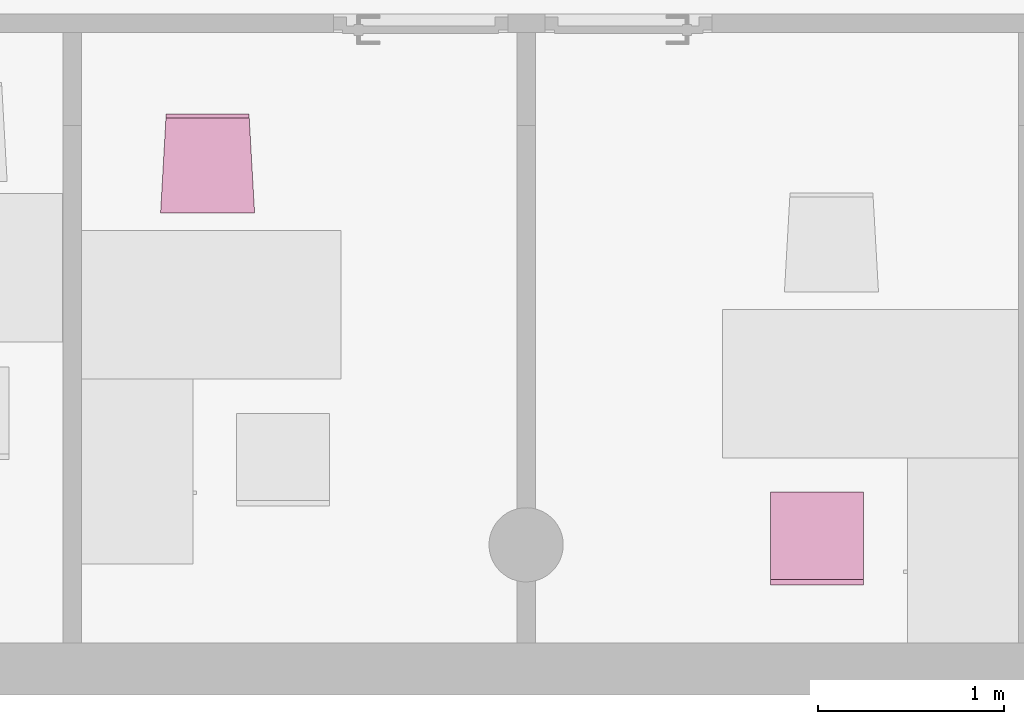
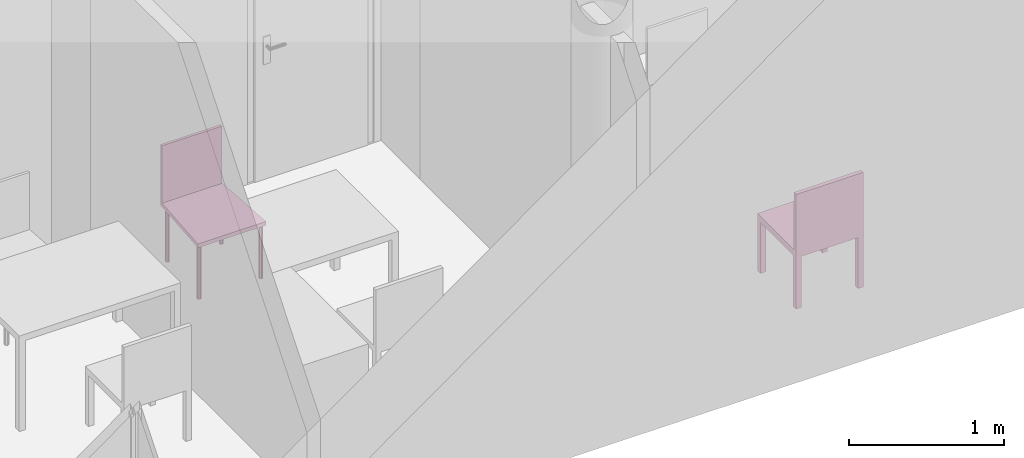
"""IFC4 building model written with IfcOpenShell, lengths in metres."""

import ifcopenshell
import ifcopenshell.guid

model = None  # the IFC model being written
_history = None  # IfcOwnerHistory: only IFC2X3 demands one
_inside = {}  # id of a spatial element -> (the spatial element, [elements in it])
_under = {}  # id of a project, library or spatial element -> (it, [spatial elements below it])
_declared = {}  # id of a project -> (the project, [libraries it declares])
_typed = {}  # id of a type object -> (the type object, [elements of that type])
_made_of = {}  # id of a material, layer set ... -> (it, [elements and type objects made of it])


def new_model(schema):
    """Start an empty IFC model of exactly this schema.

    Asked for "IFC4X3", IfcOpenShell would pick the latest addendum, in which some entities
    have other attributes; the version numbers below select the first issue.
    IFC2X3 requires an IfcOwnerHistory on every rooted entity: one is made here for all.
    """
    global model, _history
    if schema == "IFC4X3":
        model = ifcopenshell.file(schema_version=(4, 3, 0, 0))
    else:
        model = ifcopenshell.file(schema=schema)
    _inside.clear()
    _under.clear()
    _declared.clear()
    _typed.clear()
    _made_of.clear()
    _history = None
    if model.schema == "IFC2X3":
        org = make("IfcOrganization", Name="unknown")
        user = make(
            "IfcPersonAndOrganization",
            ThePerson=make("IfcPerson", FamilyName="unknown"),
            TheOrganization=org,
        )
        app = make(
            "IfcApplication",
            ApplicationDeveloper=org,
            Version="unknown",
            ApplicationFullName="unknown",
            ApplicationIdentifier="unknown",
        )
        _history = make(
            "IfcOwnerHistory",
            OwningUser=user,
            OwningApplication=app,
            ChangeAction="ADDED",
            CreationDate=0,
        )
    return model


def make(cls, **values):
    """One entity of the class cls with the attributes given. An attribute that is None is left unset."""
    return model.create_entity(
        cls, **{name: value for name, value in values.items() if value is not None}
    )


def entity(cls, *values):
    """Any entity or typed value of the class cls, its attributes in the order of the schema. None: left unset."""
    e = model.create_entity(cls)
    for i, value in enumerate(values):
        if value is not None:
            e[i] = value
    return e


def rooted(cls, **values):
    """An entity with a GlobalId (a new one), such as an element, a storey or a relation."""
    return make(cls, GlobalId=ifcopenshell.guid.new(), OwnerHistory=_history, **values)


def si_unit(unit_type, name, prefix=None):
    """IfcSIUnit, for example si_unit("LENGTHUNIT", "METRE", prefix="MILLI")."""
    return make("IfcSIUnit", UnitType=unit_type, Prefix=prefix, Name=name)


def converted_unit(unit_type, name, factor, base, dimensions=None, offset=None):
    """IfcConversionBasedUnit, such as the inch: factor (a typed value) times the base unit."""
    return make(
        "IfcConversionBasedUnit"
        if offset is None
        else "IfcConversionBasedUnitWithOffset",
        ConversionOffset=offset,
        Dimensions=None
        if dimensions is None
        else entity("IfcDimensionalExponents", *dimensions),
        UnitType=unit_type,
        Name=name,
        ConversionFactor=make(
            "IfcMeasureWithUnit", ValueComponent=factor, UnitComponent=base
        ),
    )


def derived_unit(unit_type, elements):
    """IfcDerivedUnit: a product of units, each with its exponent."""
    return make(
        "IfcDerivedUnit",
        Elements=[
            make("IfcDerivedUnitElement", Unit=unit, Exponent=power)
            for unit, power in elements
        ],
        UnitType=unit_type,
    )


def assignment(units):
    """IfcUnitAssignment: the units of a project."""
    return None if units is None else make("IfcUnitAssignment", Units=units)


def point(xyz):
    """IfcCartesianPoint."""
    return None if xyz is None else make("IfcCartesianPoint", Coordinates=xyz)


def direction(xyz):
    """IfcDirection."""
    return None if xyz is None else make("IfcDirection", DirectionRatios=xyz)


def frame(location, z_axis=None, x_axis=None):
    """IfcAxis2Placement3D, a coordinate frame: its origin and axes. An axis left out is left unset."""
    return make(
        "IfcAxis2Placement3D",
        Location=point(location),
        Axis=direction(z_axis),
        RefDirection=direction(x_axis),
    )


def origin():
    """The frame at (0, 0, 0) with its axes left unset."""
    return frame((0.0, 0.0, 0.0))


def place(relative_to, where):
    """IfcLocalPlacement: puts the frame where relative to a parent placement (None: the world)."""
    return make(
        "IfcLocalPlacement", PlacementRelTo=relative_to, RelativePlacement=where
    )


def context(
    kind, dimensions, precision=None, world=None, true_north=None, identifier=None
):
    """IfcGeometricRepresentationContext, for example the 3D "Model" context."""
    return make(
        "IfcGeometricRepresentationContext",
        ContextIdentifier=identifier,
        ContextType=kind,
        CoordinateSpaceDimension=dimensions,
        Precision=precision,
        WorldCoordinateSystem=world,
        TrueNorth=true_north,
    )


def subcontext(parent, identifier, kind, view, scale=None):
    """IfcGeometricRepresentationSubContext, for example "Body" below "Model"."""
    return make(
        "IfcGeometricRepresentationSubContext",
        ContextIdentifier=identifier,
        ContextType=kind,
        ParentContext=parent,
        TargetScale=scale,
        TargetView=view,
    )


def project(units=None, contexts=None):
    """IfcProject with its units and contexts."""
    return rooted(
        "IfcProject",
        Name="project",
        RepresentationContexts=contexts,
        UnitsInContext=assignment(units),
    )


def spatial(cls, under=None, at=None, **own):
    """A site, building, storey or space (cls), placed at a placement, below another one or the project."""
    s = rooted(cls, ObjectPlacement=at, **own)
    if under is not None:
        _under.setdefault(under.id(), (under, []))[1].append(s)
    return s


def faces_of(points, faces, orient=None, outer=None):
    """IfcFace entities. A face is a list of loops; a loop is a list of indices into points, from 0.

    orient and outer hold one flag for each loop. By default every Orientation is true, the
    first loop of a face is its IfcFaceOuterBound and the others are IfcFaceBound.
    """
    made = []
    for i, loops in enumerate(faces):
        bounds = []
        for j, loop in enumerate(loops):
            is_outer = j == 0 if outer is None else outer[i][j]
            bounds.append(
                make(
                    "IfcFaceOuterBound" if is_outer else "IfcFaceBound",
                    Bound=make("IfcPolyLoop", Polygon=[points[k] for k in loop]),
                    Orientation=True if orient is None else orient[i][j],
                )
            )
        made.append(make("IfcFace", Bounds=bounds))
    return made


def faceted_brep(points, faces, orient=None, outer=None, voids=None):
    """IfcFacetedBrep: a solid bounded by flat faces; with voids (closed shells), ...WithVoids."""
    shared = [point(p) for p in points]
    hull = make("IfcClosedShell", CfsFaces=faces_of(shared, faces, orient, outer))
    if voids is None:
        return make("IfcFacetedBrep", Outer=hull)
    return make(
        "IfcFacetedBrepWithVoids",
        Outer=hull,
        Voids=[
            make(cls, CfsFaces=faces_of(shared, fs, o, b)) for cls, fs, o, b in voids
        ],
    )


def shape(context_of_items, identifier, shape_type, items):
    """IfcShapeRepresentation: the items that make up one representation, for example the "Body"."""
    return make(
        "IfcShapeRepresentation",
        ContextOfItems=context_of_items,
        RepresentationIdentifier=identifier,
        RepresentationType=shape_type,
        Items=items,
    )


def made_of(thing, what):
    """Note that an element or type object is made of a material, layer set ...; save() writes the relation."""
    if what is not None:
        _made_of.setdefault(what.id(), (what, []))[1].append(thing)
    return thing


def element(
    cls,
    number,
    at=None,
    inside=None,
    cuts=None,
    type_object=None,
    material=None,
    context=None,
    identifier="Body",
    shape_type=None,
    held_by="IfcProductDefinitionShape",
    body=None,
    shapes=None,
    **own,
):
    """One element of the class cls, such as IfcWall. Its Tag is "e" and its number.

    at: its placement. inside: the storey or other place that contains it. cuts: it is an
    opening in that element (IfcRelVoidsElement). A single representation is given by context,
    identifier, shape_type and body (its items); several are given by shapes. held_by: the class
    of the entity that holds the representations. save() writes the other relations.
    """
    e = rooted(cls, Tag="e%d" % number, ObjectPlacement=at, **own)
    if body is not None:
        shapes = [shape(context, identifier, shape_type, body)]
    if shapes is not None:
        e.Representation = make(held_by, Representations=shapes)
    if inside is not None:
        _inside.setdefault(inside.id(), (inside, []))[1].append(e)
    if cuts is not None:
        rooted(
            "IfcRelVoidsElement", RelatingBuildingElement=cuts, RelatedOpeningElement=e
        )
    if type_object is not None:
        _typed.setdefault(type_object.id(), (type_object, []))[1].append(e)
    return made_of(e, material)


def aggregate(whole, parts):
    """IfcRelAggregates: a whole, such as a stair, and the parts it consists of."""
    return rooted("IfcRelAggregates", RelatingObject=whole, RelatedObjects=parts)


def save(model, path):
    """Write the relations noted so far, then the file.

    IfcRelAggregates (storeys below a building ...), IfcRelContainedInSpatialStructure (elements
    in a storey), IfcRelDefinesByType, IfcRelAssociatesMaterial and IfcRelDeclares: one each for
    every whole, place, type object, material and project.
    """
    for whole, parts in _under.values():
        aggregate(whole, parts)
    for where, things in _inside.values():
        rooted(
            "IfcRelContainedInSpatialStructure",
            RelatedElements=things,
            RelatingStructure=where,
        )
    for kind, things in _typed.values():
        rooted("IfcRelDefinesByType", RelatedObjects=things, RelatingType=kind)
    for what, things in _made_of.values():
        rooted("IfcRelAssociatesMaterial", RelatedObjects=things, RelatingMaterial=what)
    for by, libraries in _declared.values():
        rooted("IfcRelDeclares", RelatingContext=by, RelatedDefinitions=libraries)
    model.write(path)


model = new_model("IFC4")

# Units and contexts
model_context = context("Model", 3, precision=1e-05, world=origin())
body_context = subcontext(model_context, "Body", "Model", "MODEL_VIEW")
ifc_project = project(units=[si_unit("LENGTHUNIT", "METRE"), si_unit("AREAUNIT", "SQUARE_METRE"), si_unit("VOLUMEUNIT", "CUBIC_METRE"), si_unit("MASSUNIT", "GRAM", prefix="KILO"), converted_unit("PLANEANGLEUNIT", "DEGREE", entity("IfcPlaneAngleMeasure", 0.0174532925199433), si_unit("PLANEANGLEUNIT", "RADIAN"), dimensions=[0, 0, 0, 0, 0, 0, 0]), derived_unit("THERMALTRANSMITTANCEUNIT", [(si_unit("POWERUNIT", "WATT"), 1), (si_unit("THERMODYNAMICTEMPERATUREUNIT", "KELVIN"), -1), (si_unit("LENGTHUNIT", "METRE"), -2)]), derived_unit("VOLUMETRICFLOWRATEUNIT", [(si_unit("LENGTHUNIT", "METRE"), 3), (converted_unit("TIMEUNIT", "hour", entity("IfcTimeMeasure", 3600.0), si_unit("TIMEUNIT", "SECOND"), dimensions=[0, 0, 1, 0, 0, 0, 0]), -1), (si_unit("LENGTHUNIT", "METRE"), -1)])], contexts=[model_context])

# Building, storeys
building_placement = place(None, origin())
building = spatial("IfcBuilding", under=ifc_project, at=building_placement, Name="HABITATGE PLURIFAMILIAR", CompositionType="ELEMENT")
storey_1_placement = place(building_placement, frame((0.0, 0.0, 6.25)))
storey_1 = spatial("IfcBuildingStorey", under=building, at=storey_1_placement, Name="PLANTA PRIMERA", CompositionType="ELEMENT", Elevation=6.25)
storey_2_placement = place(storey_1_placement, frame((0.0, 0.0, 3.35)))
storey_2 = spatial("IfcBuildingStorey", under=storey_1, at=storey_2_placement, Name="NOU", CompositionType="PARTIAL")

# Furniture
furniture_1_placement = place(storey_2_placement, frame((412.051154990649, 13.4330709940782, -3.34942958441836)))
element("IfcFurniture", 1, at=furniture_1_placement, inside=storey_2, Name="Cadira d'Oficina_P1", context=body_context, shape_type="Brep", body=[
    faceted_brep([(0.0, 0.5, 0.4), (0.0, 0.0, 0.4), (0.5, 0.0, 0.4), (0.5, 0.5, 0.4), (0.0, 0.0, 0.45), (0.0, 0.5, 0.45), (0.5, 0.5, 0.45), (0.5, 0.0, 0.45)], [[[0, 1, 2, 3]], [[4, 5, 6, 7]], [[1, 0, 5, 4]], [[2, 1, 4, 7]], [[3, 2, 7, 6]], [[0, 3, 6, 5]]], orient=[[False], [False], [False], [False], [False], [False]]),
    faceted_brep([(0.5, 0.04, 0.0), (0.46, 0.04, 0.0), (0.46, 0.0, 0.0), (0.5, 0.0, 0.0), (0.46, 0.04, 0.4), (0.5, 0.04, 0.4), (0.5, 0.0, 0.4), (0.46, 0.0, 0.4)], [[[0, 1, 2, 3]], [[4, 5, 6, 7]], [[1, 0, 5, 4]], [[2, 1, 4, 7]], [[3, 2, 7, 6]], [[0, 3, 6, 5]]], orient=[[False], [False], [False], [False], [False], [False]]),
    faceted_brep([(0.5, 0.5, 0.0), (0.46, 0.5, 0.0), (0.46, 0.46, 0.0), (0.5, 0.46, 0.0), (0.46, 0.5, 0.4), (0.5, 0.5, 0.4), (0.5, 0.46, 0.4), (0.46, 0.46, 0.4)], [[[0, 1, 2, 3]], [[4, 5, 6, 7]], [[1, 0, 5, 4]], [[2, 1, 4, 7]], [[3, 2, 7, 6]], [[0, 3, 6, 5]]], orient=[[False], [False], [False], [False], [False], [False]]),
    faceted_brep([(0.04, 0.04, 0.0), (0.0, 0.04, 0.0), (0.0, 0.0, 0.0), (0.04, 0.0, 0.0), (0.0, 0.04, 0.4), (0.04, 0.04, 0.4), (0.04, 0.0, 0.4), (0.0, 0.0, 0.4)], [[[0, 1, 2, 3]], [[4, 5, 6, 7]], [[1, 0, 5, 4]], [[2, 1, 4, 7]], [[3, 2, 7, 6]], [[0, 3, 6, 5]]], orient=[[False], [False], [False], [False], [False], [False]]),
    faceted_brep([(0.04, 0.5, 0.0), (0.0, 0.5, 0.0), (0.0, 0.46, 0.0), (0.04, 0.46, 0.0), (0.0, 0.5, 0.4), (0.04, 0.5, 0.4), (0.04, 0.46, 0.4), (0.0, 0.46, 0.4)], [[[0, 1, 2, 3]], [[4, 5, 6, 7]], [[1, 0, 5, 4]], [[2, 1, 4, 7]], [[3, 2, 7, 6]], [[0, 3, 6, 5]]], orient=[[False], [False], [False], [False], [False], [False]]),
    faceted_brep([(0.5, 0.03, 0.45), (0.0, 0.03, 0.45), (0.0, 0.0, 0.45), (0.5, 0.0, 0.45), (0.0, 0.03, 0.9), (0.5, 0.03, 0.9), (0.5, 0.0, 0.9), (0.0, 0.0, 0.9)], [[[0, 1, 2, 3]], [[4, 5, 6, 7]], [[1, 0, 5, 4]], [[2, 1, 4, 7]], [[3, 2, 7, 6]], [[0, 3, 6, 5]]], orient=[[False], [False], [False], [False], [False], [False]]),
])
furniture_2_placement = place(storey_2_placement, frame((408.763972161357, 15.4374133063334, -3.35114412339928)))
element("IfcFurniture", 2, at=furniture_2_placement, inside=storey_2, Name="Cadira confient_P1", context=body_context, shape_type="Brep", body=[
    faceted_brep([(0.497227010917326, 0.0250324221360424, 0.0), (0.49701133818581, 0.0276273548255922, 0.0), (0.496348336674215, 0.0301454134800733, 0.0), (0.495258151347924, 0.0325100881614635, 0.0), (0.493773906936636, 0.0346495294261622, 0.0), (0.49194070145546, 0.0364987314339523, 0.0), (0.489814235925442, 0.0380015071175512, 0.0), (0.487459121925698, 0.0391121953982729, 0.0), (0.484946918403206, 0.0397970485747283, 0.0), (0.482353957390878, 0.0400352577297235, 0.0), (0.479759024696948, 0.0398195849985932, 0.0), (0.477240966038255, 0.0391565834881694, 0.0), (0.474876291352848, 0.0380663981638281, 0.0), (0.472736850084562, 0.0365821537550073, 0.0), (0.470887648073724, 0.0347489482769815, 0.0), (0.469384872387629, 0.0326224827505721, 0.0), (0.468274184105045, 0.0302673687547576, 0.0), (0.467589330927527, 0.0277551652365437, 0.0), (0.467351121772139, 0.0251622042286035, 0.0), (0.467566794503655, 0.0225672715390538, 0.0), (0.46822979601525, 0.0200492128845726, 0.0), (0.469319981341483, 0.0176845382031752, 0.0), (0.470804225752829, 0.0155450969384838, 0.0), (0.472637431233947, 0.0136958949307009, 0.0), (0.474763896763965, 0.012193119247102, 0.0), (0.477119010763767, 0.0110824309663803, 0.0), (0.479631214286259, 0.0103975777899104, 0.0), (0.482224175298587, 0.0101593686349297, 0.0), (0.484819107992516, 0.0103750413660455, 0.0), (0.48733716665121, 0.0110380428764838, 0.0), (0.489701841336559, 0.0121282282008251, 0.0), (0.491841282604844, 0.0136124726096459, 0.0), (0.493690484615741, 0.0154456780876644, 0.0), (0.495193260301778, 0.0175721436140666, 0.0), (0.49630394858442, 0.0199272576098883, 0.0), (0.496988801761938, 0.0224394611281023, 0.0), (0.497227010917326, 0.0250324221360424, 0.448281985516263), (0.496988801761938, 0.0224394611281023, 0.448281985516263), (0.49630394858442, 0.0199272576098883, 0.448281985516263), (0.495193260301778, 0.0175721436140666, 0.448281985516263), (0.493690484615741, 0.0154456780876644, 0.448281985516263), (0.491841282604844, 0.0136124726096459, 0.448281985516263), (0.489701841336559, 0.0121282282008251, 0.448281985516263), (0.48733716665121, 0.0110380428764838, 0.448281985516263), (0.484819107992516, 0.0103750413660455, 0.448281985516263), (0.482224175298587, 0.0101593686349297, 0.448281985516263), (0.479631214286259, 0.0103975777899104, 0.448281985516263), (0.477119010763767, 0.0110824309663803, 0.448281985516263), (0.474763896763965, 0.012193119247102, 0.448281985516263), (0.472637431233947, 0.0136958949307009, 0.448281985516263), (0.470804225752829, 0.0155450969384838, 0.448281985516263), (0.469319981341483, 0.0176845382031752, 0.448281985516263), (0.46822979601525, 0.0200492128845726, 0.448281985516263), (0.467566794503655, 0.0225672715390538, 0.448281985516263), (0.467351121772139, 0.0251622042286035, 0.448281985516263), (0.467589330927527, 0.0277551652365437, 0.448281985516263), (0.468274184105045, 0.0302673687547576, 0.448281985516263), (0.469384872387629, 0.0326224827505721, 0.448281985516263), (0.470887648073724, 0.0347489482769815, 0.448281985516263), (0.472736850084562, 0.0365821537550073, 0.448281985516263), (0.474876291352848, 0.0380663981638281, 0.448281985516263), (0.477240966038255, 0.0391565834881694, 0.448281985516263), (0.479759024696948, 0.0398195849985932, 0.448281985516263), (0.482353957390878, 0.0400352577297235, 0.448281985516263), (0.484946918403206, 0.0397970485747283, 0.448281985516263), (0.487459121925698, 0.0391121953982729, 0.448281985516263), (0.489814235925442, 0.0380015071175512, 0.448281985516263), (0.49194070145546, 0.0364987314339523, 0.448281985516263), (0.493773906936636, 0.0346495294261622, 0.448281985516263), (0.495258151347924, 0.0325100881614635, 0.448281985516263), (0.496348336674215, 0.0301454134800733, 0.448281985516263), (0.49701133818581, 0.0276273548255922, 0.448281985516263)], [[[0, 1, 2, 3, 4, 5, 6, 7, 8, 9, 10, 11, 12, 13, 14, 15, 16, 17, 18, 19, 20, 21, 22, 23, 24, 25, 26, 27, 28, 29, 30, 31, 32, 33, 34, 35]], [[36, 37, 38, 39, 40, 41, 42, 43, 44, 45, 46, 47, 48, 49, 50, 51, 52, 53, 54, 55, 56, 57, 58, 59, 60, 61, 62, 63, 64, 65, 66, 67, 68, 69, 70, 71]], [[1, 0, 36, 71]], [[2, 1, 71, 70]], [[3, 2, 70, 69]], [[4, 3, 69, 68]], [[5, 4, 68, 67]], [[6, 5, 67, 66]], [[7, 6, 66, 65]], [[8, 7, 65, 64]], [[9, 8, 64, 63]], [[10, 9, 63, 62]], [[11, 10, 62, 61]], [[12, 11, 61, 60]], [[13, 12, 60, 59]], [[14, 13, 59, 58]], [[15, 14, 58, 57]], [[16, 15, 57, 56]], [[17, 16, 56, 55]], [[18, 17, 55, 54]], [[19, 18, 54, 53]], [[20, 19, 53, 52]], [[21, 20, 52, 51]], [[22, 21, 51, 50]], [[23, 22, 50, 49]], [[24, 23, 49, 48]], [[25, 24, 48, 47]], [[26, 25, 47, 46]], [[27, 26, 46, 45]], [[28, 27, 45, 44]], [[29, 28, 44, 43]], [[30, 29, 43, 42]], [[31, 30, 42, 41]], [[32, 31, 41, 40]], [[33, 32, 40, 39]], [[34, 33, 39, 38]], [[35, 34, 38, 37]], [[0, 35, 37, 36]]], orient=[[False], [False], [False], [False], [False], [False], [False], [False], [False], [False], [False], [False], [False], [False], [False], [False], [False], [False], [False], [False], [False], [False], [False], [False], [False], [False], [False], [False], [False], [False], [False], [False], [False], [False], [False], [False], [False], [False]]),
    faceted_brep([(0.469589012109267, 0.487439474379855, 0.0), (0.469373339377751, 0.490034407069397, 0.0), (0.468710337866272, 0.492552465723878, 0.0), (0.467620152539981, 0.494917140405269, 0.0), (0.466135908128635, 0.497056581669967, 0.0), (0.464302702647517, 0.498905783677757, 0.0), (0.462176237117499, 0.500408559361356, 0.0), (0.459821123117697, 0.501519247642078, 0.0), (0.457308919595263, 0.502204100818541, 0.0), (0.454715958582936, 0.502442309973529, 0.0), (0.452121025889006, 0.502226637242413, 0.0), (0.449602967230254, 0.501563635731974, 0.0), (0.447238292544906, 0.500473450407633, 0.0), (0.44509885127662, 0.498989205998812, 0.0), (0.443249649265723, 0.497156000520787, 0.0), (0.441746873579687, 0.495029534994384, 0.0), (0.440636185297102, 0.49267442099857, 0.0), (0.439951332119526, 0.490162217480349, 0.0), (0.439713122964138, 0.487569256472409, 0.0), (0.439928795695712, 0.484974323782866, 0.0), (0.440591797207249, 0.482456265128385, 0.0), (0.441681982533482, 0.480091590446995, 0.0), (0.443166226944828, 0.477952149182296, 0.0), (0.444999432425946, 0.476102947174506, 0.0), (0.447125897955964, 0.474600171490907, 0.0), (0.449481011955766, 0.473489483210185, 0.0), (0.451993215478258, 0.47280463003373, 0.0), (0.454586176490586, 0.472566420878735, 0.0), (0.457181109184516, 0.472782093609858, 0.0), (0.45969916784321, 0.473445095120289, 0.0), (0.462063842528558, 0.47453528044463, 0.0), (0.464203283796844, 0.476019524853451, 0.0), (0.466052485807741, 0.477852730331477, 0.0), (0.467555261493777, 0.479979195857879, 0.0), (0.468665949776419, 0.482334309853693, 0.0), (0.469350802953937, 0.484846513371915, 0.0), (0.469589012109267, 0.487439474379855, 0.448281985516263), (0.469350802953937, 0.484846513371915, 0.448281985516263), (0.468665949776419, 0.482334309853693, 0.448281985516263), (0.467555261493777, 0.479979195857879, 0.448281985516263), (0.466052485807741, 0.477852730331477, 0.448281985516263), (0.464203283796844, 0.476019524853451, 0.448281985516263), (0.462063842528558, 0.47453528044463, 0.448281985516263), (0.45969916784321, 0.473445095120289, 0.448281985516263), (0.457181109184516, 0.472782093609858, 0.448281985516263), (0.454586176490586, 0.472566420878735, 0.448281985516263), (0.451993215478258, 0.47280463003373, 0.448281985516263), (0.449481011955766, 0.473489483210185, 0.448281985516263), (0.447125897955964, 0.474600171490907, 0.448281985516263), (0.444999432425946, 0.476102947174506, 0.448281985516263), (0.443166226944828, 0.477952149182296, 0.448281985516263), (0.441681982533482, 0.480091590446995, 0.448281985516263), (0.440591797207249, 0.482456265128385, 0.448281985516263), (0.439928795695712, 0.484974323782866, 0.448281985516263), (0.439713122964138, 0.487569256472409, 0.448281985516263), (0.439951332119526, 0.490162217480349, 0.448281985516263), (0.440636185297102, 0.49267442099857, 0.448281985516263), (0.441746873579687, 0.495029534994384, 0.448281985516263), (0.443249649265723, 0.497156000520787, 0.448281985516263), (0.44509885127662, 0.498989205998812, 0.448281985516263), (0.447238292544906, 0.500473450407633, 0.448281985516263), (0.449602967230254, 0.501563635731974, 0.448281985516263), (0.452121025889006, 0.502226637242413, 0.448281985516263), (0.454715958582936, 0.502442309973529, 0.448281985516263), (0.457308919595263, 0.502204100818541, 0.448281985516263), (0.459821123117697, 0.501519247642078, 0.448281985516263), (0.462176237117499, 0.500408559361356, 0.448281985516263), (0.464302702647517, 0.498905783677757, 0.448281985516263), (0.466135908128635, 0.497056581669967, 0.448281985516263), (0.467620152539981, 0.494917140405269, 0.448281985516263), (0.468710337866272, 0.492552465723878, 0.448281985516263), (0.469373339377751, 0.490034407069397, 0.448281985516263)], [[[0, 1, 2, 3, 4, 5, 6, 7, 8, 9, 10, 11, 12, 13, 14, 15, 16, 17, 18, 19, 20, 21, 22, 23, 24, 25, 26, 27, 28, 29, 30, 31, 32, 33, 34, 35]], [[36, 37, 38, 39, 40, 41, 42, 43, 44, 45, 46, 47, 48, 49, 50, 51, 52, 53, 54, 55, 56, 57, 58, 59, 60, 61, 62, 63, 64, 65, 66, 67, 68, 69, 70, 71]], [[1, 0, 36, 71]], [[2, 1, 71, 70]], [[3, 2, 70, 69]], [[4, 3, 69, 68]], [[5, 4, 68, 67]], [[6, 5, 67, 66]], [[7, 6, 66, 65]], [[8, 7, 65, 64]], [[9, 8, 64, 63]], [[10, 9, 63, 62]], [[11, 10, 62, 61]], [[12, 11, 61, 60]], [[13, 12, 60, 59]], [[14, 13, 59, 58]], [[15, 14, 58, 57]], [[16, 15, 57, 56]], [[17, 16, 56, 55]], [[18, 17, 55, 54]], [[19, 18, 54, 53]], [[20, 19, 53, 52]], [[21, 20, 52, 51]], [[22, 21, 51, 50]], [[23, 22, 50, 49]], [[24, 23, 49, 48]], [[25, 24, 48, 47]], [[26, 25, 47, 46]], [[27, 26, 46, 45]], [[28, 27, 45, 44]], [[29, 28, 44, 43]], [[30, 29, 43, 42]], [[31, 30, 42, 41]], [[32, 31, 41, 40]], [[33, 32, 40, 39]], [[34, 33, 39, 38]], [[35, 34, 38, 37]], [[0, 35, 37, 36]]], orient=[[False], [False], [False], [False], [False], [False], [False], [False], [False], [False], [False], [False], [False], [False], [False], [False], [False], [False], [False], [False], [False], [False], [False], [False], [False], [False], [False], [False], [False], [False], [False], [False], [False], [False], [False], [False], [False], [False]]),
    faceted_brep([(0.0372270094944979, 0.0250324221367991, 0.0), (0.0370113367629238, 0.0276273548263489, 0.0), (0.0363483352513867, 0.0301454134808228, 0.0), (0.0352581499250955, 0.0325100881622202, 0.0), (0.0337739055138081, 0.0346495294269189, 0.0), (0.0319407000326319, 0.0364987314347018, 0.0), (0.0298142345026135, 0.0380015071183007, 0.0), (0.0274591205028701, 0.0391121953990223, 0.0), (0.0249469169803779, 0.039797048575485, 0.0), (0.0223539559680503, 0.040035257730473, 0.0), (0.0197590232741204, 0.0398195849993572, 0.0), (0.0172409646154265, 0.0391565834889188, 0.0), (0.0148762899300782, 0.0380663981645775, 0.0), (0.0127368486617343, 0.0365821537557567, 0.0), (0.0108876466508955, 0.0347489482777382, 0.0), (0.00938487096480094, 0.0326224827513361, 0.0), (0.00827418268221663, 0.0302673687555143, 0.0), (0.00758932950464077, 0.0277551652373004, 0.0), (0.0073511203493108, 0.0251622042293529, 0.0), (0.00756679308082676, 0.0225672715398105, 0.0), (0.00822979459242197, 0.0200492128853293, 0.0), (0.00931997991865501, 0.0176845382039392, 0.0), (0.0108042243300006, 0.0155450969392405, 0.0), (0.0126374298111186, 0.0136958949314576, 0.0), (0.0147638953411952, 0.0121931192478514, 0.0), (0.0171190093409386, 0.0110824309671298, 0.0), (0.0196312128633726, 0.0103975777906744, 0.0), (0.0222241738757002, 0.0101593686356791, 0.0), (0.0248191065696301, 0.0103750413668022, 0.0), (0.0273371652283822, 0.0110380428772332, 0.0), (0.0297018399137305, 0.0121282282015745, 0.0), (0.0318412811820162, 0.0136124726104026, 0.0), (0.0336904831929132, 0.0154456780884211, 0.0), (0.0351932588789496, 0.0175721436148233, 0.0), (0.0363039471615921, 0.0199272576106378, 0.0), (0.0369888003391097, 0.022439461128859, 0.0), (0.0372270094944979, 0.0250324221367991, 0.448281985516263), (0.0369888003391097, 0.022439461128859, 0.448281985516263), (0.0363039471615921, 0.0199272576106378, 0.448281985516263), (0.0351932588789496, 0.0175721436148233, 0.448281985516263), (0.0336904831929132, 0.0154456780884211, 0.448281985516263), (0.0318412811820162, 0.0136124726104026, 0.448281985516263), (0.0297018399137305, 0.0121282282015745, 0.448281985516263), (0.0273371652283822, 0.0110380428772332, 0.448281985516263), (0.0248191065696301, 0.0103750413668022, 0.448281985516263), (0.0222241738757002, 0.0101593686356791, 0.448281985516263), (0.0196312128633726, 0.0103975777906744, 0.448281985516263), (0.0171190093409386, 0.0110824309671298, 0.448281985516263), (0.0147638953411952, 0.0121931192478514, 0.448281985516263), (0.0126374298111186, 0.0136958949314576, 0.448281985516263), (0.0108042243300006, 0.0155450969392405, 0.448281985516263), (0.00931997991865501, 0.0176845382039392, 0.448281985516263), (0.00822979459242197, 0.0200492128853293, 0.448281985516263), (0.00756679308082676, 0.0225672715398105, 0.448281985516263), (0.0073511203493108, 0.0251622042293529, 0.448281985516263), (0.00758932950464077, 0.0277551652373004, 0.448281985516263), (0.00827418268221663, 0.0302673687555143, 0.448281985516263), (0.00938487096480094, 0.0326224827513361, 0.448281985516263), (0.0108876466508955, 0.0347489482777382, 0.448281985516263), (0.0127368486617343, 0.0365821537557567, 0.448281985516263), (0.0148762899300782, 0.0380663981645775, 0.448281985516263), (0.0172409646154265, 0.0391565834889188, 0.448281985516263), (0.0197590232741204, 0.0398195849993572, 0.448281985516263), (0.0223539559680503, 0.040035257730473, 0.448281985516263), (0.0249469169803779, 0.039797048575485, 0.448281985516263), (0.0274591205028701, 0.0391121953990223, 0.448281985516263), (0.0298142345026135, 0.0380015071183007, 0.448281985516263), (0.0319407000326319, 0.0364987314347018, 0.448281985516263), (0.0337739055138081, 0.0346495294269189, 0.448281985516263), (0.0352581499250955, 0.0325100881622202, 0.448281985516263), (0.0363483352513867, 0.0301454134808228, 0.448281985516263), (0.0370113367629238, 0.0276273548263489, 0.448281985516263)], [[[0, 1, 2, 3, 4, 5, 6, 7, 8, 9, 10, 11, 12, 13, 14, 15, 16, 17, 18, 19, 20, 21, 22, 23, 24, 25, 26, 27, 28, 29, 30, 31, 32, 33, 34, 35]], [[36, 37, 38, 39, 40, 41, 42, 43, 44, 45, 46, 47, 48, 49, 50, 51, 52, 53, 54, 55, 56, 57, 58, 59, 60, 61, 62, 63, 64, 65, 66, 67, 68, 69, 70, 71]], [[1, 0, 36, 71]], [[2, 1, 71, 70]], [[3, 2, 70, 69]], [[4, 3, 69, 68]], [[5, 4, 68, 67]], [[6, 5, 67, 66]], [[7, 6, 66, 65]], [[8, 7, 65, 64]], [[9, 8, 64, 63]], [[10, 9, 63, 62]], [[11, 10, 62, 61]], [[12, 11, 61, 60]], [[13, 12, 60, 59]], [[14, 13, 59, 58]], [[15, 14, 58, 57]], [[16, 15, 57, 56]], [[17, 16, 56, 55]], [[18, 17, 55, 54]], [[19, 18, 54, 53]], [[20, 19, 53, 52]], [[21, 20, 52, 51]], [[22, 21, 51, 50]], [[23, 22, 50, 49]], [[24, 23, 49, 48]], [[25, 24, 48, 47]], [[26, 25, 47, 46]], [[27, 26, 46, 45]], [[28, 27, 45, 44]], [[29, 28, 44, 43]], [[30, 29, 43, 42]], [[31, 30, 42, 41]], [[32, 31, 41, 40]], [[33, 32, 40, 39]], [[34, 33, 39, 38]], [[35, 34, 38, 37]], [[0, 35, 37, 36]]], orient=[[False], [False], [False], [False], [False], [False], [False], [False], [False], [False], [False], [False], [False], [False], [False], [False], [False], [False], [False], [False], [False], [False], [False], [False], [False], [False], [False], [False], [False], [False], [False], [False], [False], [False], [False], [False], [False], [False]]),
    faceted_brep([(0.0695890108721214, 0.487439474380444, 0.0), (0.0693733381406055, 0.490034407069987, 0.0), (0.0687103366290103, 0.492552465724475, 0.0), (0.0676201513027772, 0.494917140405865, 0.0), (0.0661359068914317, 0.497056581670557, 0.0), (0.0643027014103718, 0.498905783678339, 0.0), (0.0621762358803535, 0.500408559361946, 0.0), (0.0598211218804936, 0.501519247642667, 0.0), (0.0573089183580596, 0.50220410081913, 0.0), (0.054715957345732, 0.502442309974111, 0.0), (0.0521210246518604, 0.502226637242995, 0.0), (0.04960296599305, 0.501563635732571, 0.0), (0.0472382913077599, 0.50047345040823, 0.0), (0.0450988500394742, 0.498989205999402, 0.0), (0.043249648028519, 0.497156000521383, 0.0), (0.0417468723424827, 0.495029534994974, 0.0), (0.0406361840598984, 0.492674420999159, 0.0), (0.0399513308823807, 0.490162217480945, 0.0), (0.0397131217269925, 0.487569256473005, 0.0), (0.0399287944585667, 0.484974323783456, 0.0), (0.0405917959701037, 0.482456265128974, 0.0), (0.0416819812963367, 0.480091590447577, 0.0), (0.0431662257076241, 0.477952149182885, 0.0), (0.0449994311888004, 0.476102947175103, 0.0), (0.0471258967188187, 0.474600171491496, 0.0), (0.0494810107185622, 0.473489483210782, 0.0), (0.0519932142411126, 0.472804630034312, 0.0), (0.054586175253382, 0.472566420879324, 0.0), (0.0571811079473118, 0.472782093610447, 0.0), (0.0596991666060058, 0.473445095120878, 0.0), (0.0620638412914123, 0.474535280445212, 0.0), (0.064203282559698, 0.47601952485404, 0.0), (0.0660524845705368, 0.477852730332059, 0.0), (0.0675552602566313, 0.479979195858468, 0.0), (0.0686659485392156, 0.48233430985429, 0.0), (0.0693508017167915, 0.484846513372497, 0.0), (0.0695890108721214, 0.487439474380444, 0.448281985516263), (0.0693508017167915, 0.484846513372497, 0.448281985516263), (0.0686659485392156, 0.48233430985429, 0.448281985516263), (0.0675552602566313, 0.479979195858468, 0.448281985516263), (0.0660524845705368, 0.477852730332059, 0.448281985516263), (0.064203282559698, 0.47601952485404, 0.448281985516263), (0.0620638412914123, 0.474535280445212, 0.448281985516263), (0.0596991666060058, 0.473445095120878, 0.448281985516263), (0.0571811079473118, 0.472782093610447, 0.448281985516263), (0.054586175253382, 0.472566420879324, 0.448281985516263), (0.0519932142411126, 0.472804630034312, 0.448281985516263), (0.0494810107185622, 0.473489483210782, 0.448281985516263), (0.0471258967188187, 0.474600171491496, 0.448281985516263), (0.0449994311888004, 0.476102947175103, 0.448281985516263), (0.0431662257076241, 0.477952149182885, 0.448281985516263), (0.0416819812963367, 0.480091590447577, 0.448281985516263), (0.0405917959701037, 0.482456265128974, 0.448281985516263), (0.0399287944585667, 0.484974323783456, 0.448281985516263), (0.0397131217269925, 0.487569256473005, 0.448281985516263), (0.0399513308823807, 0.490162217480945, 0.448281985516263), (0.0406361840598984, 0.492674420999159, 0.448281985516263), (0.0417468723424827, 0.495029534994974, 0.448281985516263), (0.043249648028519, 0.497156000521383, 0.448281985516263), (0.0450988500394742, 0.498989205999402, 0.448281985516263), (0.0472382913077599, 0.50047345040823, 0.448281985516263), (0.04960296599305, 0.501563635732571, 0.448281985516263), (0.0521210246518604, 0.502226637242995, 0.448281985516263), (0.054715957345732, 0.502442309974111, 0.448281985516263), (0.0573089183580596, 0.50220410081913, 0.448281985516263), (0.0598211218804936, 0.501519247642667, 0.448281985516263), (0.0621762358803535, 0.500408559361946, 0.448281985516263), (0.0643027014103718, 0.498905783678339, 0.448281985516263), (0.0661359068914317, 0.497056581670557, 0.448281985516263), (0.0676201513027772, 0.494917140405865, 0.448281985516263), (0.0687103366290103, 0.492552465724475, 0.448281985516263), (0.0693733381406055, 0.490034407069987, 0.448281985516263)], [[[0, 1, 2, 3, 4, 5, 6, 7, 8, 9, 10, 11, 12, 13, 14, 15, 16, 17, 18, 19, 20, 21, 22, 23, 24, 25, 26, 27, 28, 29, 30, 31, 32, 33, 34, 35]], [[36, 37, 38, 39, 40, 41, 42, 43, 44, 45, 46, 47, 48, 49, 50, 51, 52, 53, 54, 55, 56, 57, 58, 59, 60, 61, 62, 63, 64, 65, 66, 67, 68, 69, 70, 71]], [[1, 0, 36, 71]], [[2, 1, 71, 70]], [[3, 2, 70, 69]], [[4, 3, 69, 68]], [[5, 4, 68, 67]], [[6, 5, 67, 66]], [[7, 6, 66, 65]], [[8, 7, 65, 64]], [[9, 8, 64, 63]], [[10, 9, 63, 62]], [[11, 10, 62, 61]], [[12, 11, 61, 60]], [[13, 12, 60, 59]], [[14, 13, 59, 58]], [[15, 14, 58, 57]], [[16, 15, 57, 56]], [[17, 16, 56, 55]], [[18, 17, 55, 54]], [[19, 18, 54, 53]], [[20, 19, 53, 52]], [[21, 20, 52, 51]], [[22, 21, 51, 50]], [[23, 22, 50, 49]], [[24, 23, 49, 48]], [[25, 24, 48, 47]], [[26, 25, 47, 46]], [[27, 26, 46, 45]], [[28, 27, 45, 44]], [[29, 28, 44, 43]], [[30, 29, 43, 42]], [[31, 30, 42, 41]], [[32, 31, 41, 40]], [[33, 32, 40, 39]], [[34, 33, 39, 38]], [[35, 34, 38, 37]], [[0, 35, 37, 36]]], orient=[[False], [False], [False], [False], [False], [False], [False], [False], [False], [False], [False], [False], [False], [False], [False], [False], [False], [False], [False], [False], [False], [False], [False], [False], [False], [False], [False], [False], [False], [False], [False], [False], [False], [False], [False], [False], [False], [False]]),
    faceted_brep([(0.0300000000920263, 0.532607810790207, 0.418281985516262), (0.0, 0.0, 0.418281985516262), (0.506514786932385, 0.0, 0.418281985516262), (0.476514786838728, 0.532607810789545, 0.418281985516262), (0.0, 0.0, 0.448281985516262), (0.0300000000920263, 0.532607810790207, 0.448281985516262), (0.476514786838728, 0.532607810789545, 0.448281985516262), (0.506514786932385, 0.0, 0.448281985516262)], [[[0, 1, 2, 3]], [[4, 5, 6, 7]], [[1, 0, 5, 4]], [[2, 1, 4, 7]], [[3, 2, 7, 6]], [[0, 3, 6, 5]]], orient=[[False], [False], [False], [False], [False], [False]]),
    faceted_brep([(0.0300000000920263, 0.512607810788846, 0.448281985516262), (0.476514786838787, 0.512607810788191, 0.448281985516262), (0.476514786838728, 0.532607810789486, 0.448281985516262), (0.0300000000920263, 0.532607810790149, 0.448281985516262), (0.476514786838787, 0.512607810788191, 0.898281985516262), (0.0300000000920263, 0.512607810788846, 0.898281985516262), (0.0300000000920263, 0.532607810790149, 0.898281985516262), (0.476514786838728, 0.532607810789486, 0.898281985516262)], [[[0, 1, 2, 3]], [[4, 5, 6, 7]], [[1, 0, 5, 4]], [[2, 1, 4, 7]], [[3, 2, 7, 6]], [[0, 3, 6, 5]]], orient=[[False], [False], [False], [False], [False], [False]]),
])

save(model, "model.ifc")
